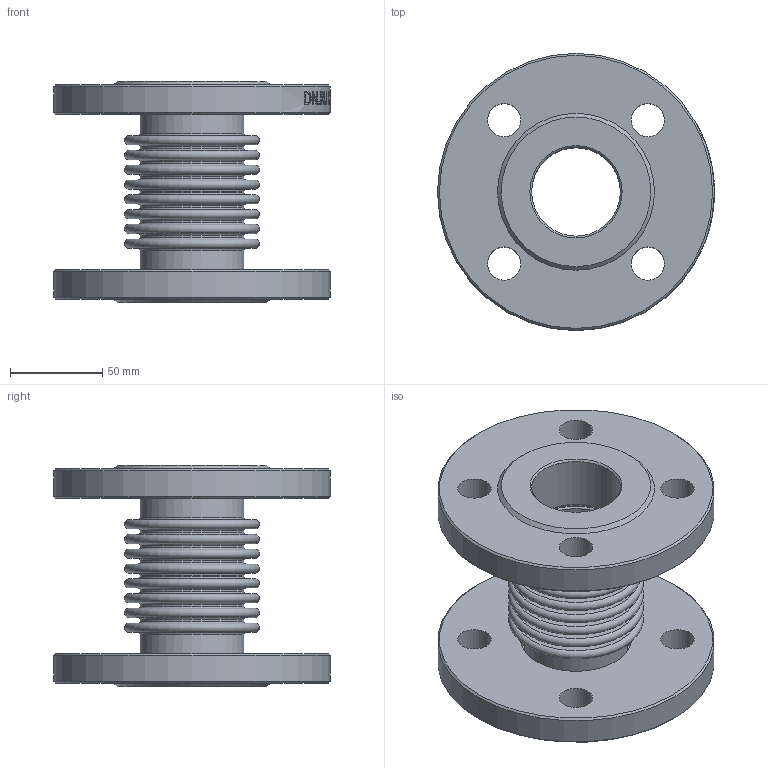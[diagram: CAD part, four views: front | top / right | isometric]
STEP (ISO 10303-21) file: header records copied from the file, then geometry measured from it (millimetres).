
FILE_DESCRIPTION(/* description */ ('D140-02112','CAx-IF Rec.Pracs.---Representation and Presentation of Product Manufacturing Information (PMI)---4.0---2014-10-13'),/* implementation_level */ '2;1');
FILE_NAME(/* name */ '',/* time_stamp */ '2026-04-13T23:14:58+03:00',/* author */ ('DN.RU'),/* organization */ ('DN.RU'),/* preprocessor_version */ 'ST-DEVELOPER v20',/* originating_system */ 'Autodesk Inventor 2025',/* authorisation */ '');
FILE_SCHEMA (('AP242_MANAGED_MODEL_BASED_3D_ENGINEERING_MIM_LF { 1 0 10303 442 1 1 4 }'));
Length unit declared in the file: millimetre
Products named in the file (1): CB-3234-F
Bounding box: 150 x 150 x 120 mm (x, y, z)
Volume: 533278.7 mm3; surface area: 170858.6 mm2
Topology: 1 solids, 1 shells, 314 faces, 760 edges, 506 vertices
Faces by surface type: plane 137, bspline 71, cylinder 50, torus 48, cone 8
Full cylindrical faces by diameter (mm): 18 x8, 48 x2, 54 x7, 56 x9, 60 x2, 150 x2
Entity records: 12038 total; most frequent: CARTESIAN_POINT 4048, ORIENTED_EDGE 1520, DIRECTION 1512, EDGE_CURVE 760, AXIS2_PLACEMENT_3D 613, VERTEX_POINT 506, STYLED_ITEM 405, EDGE_LOOP 390
